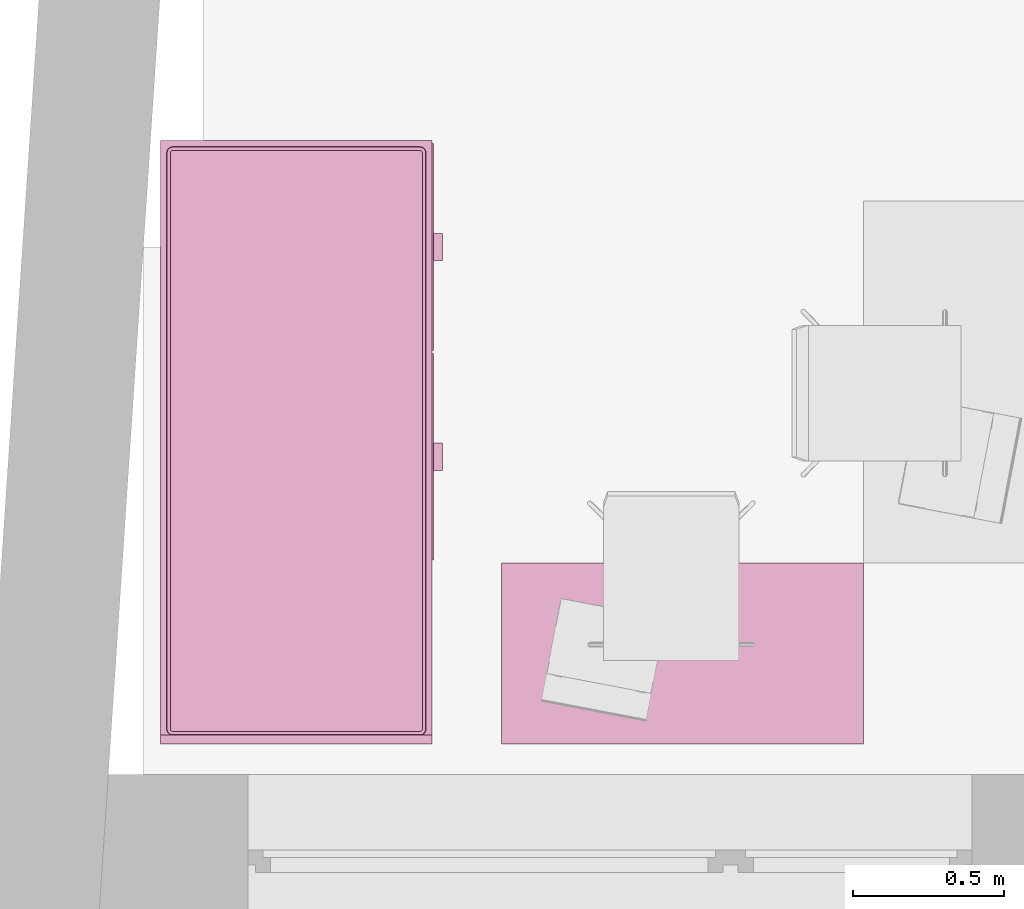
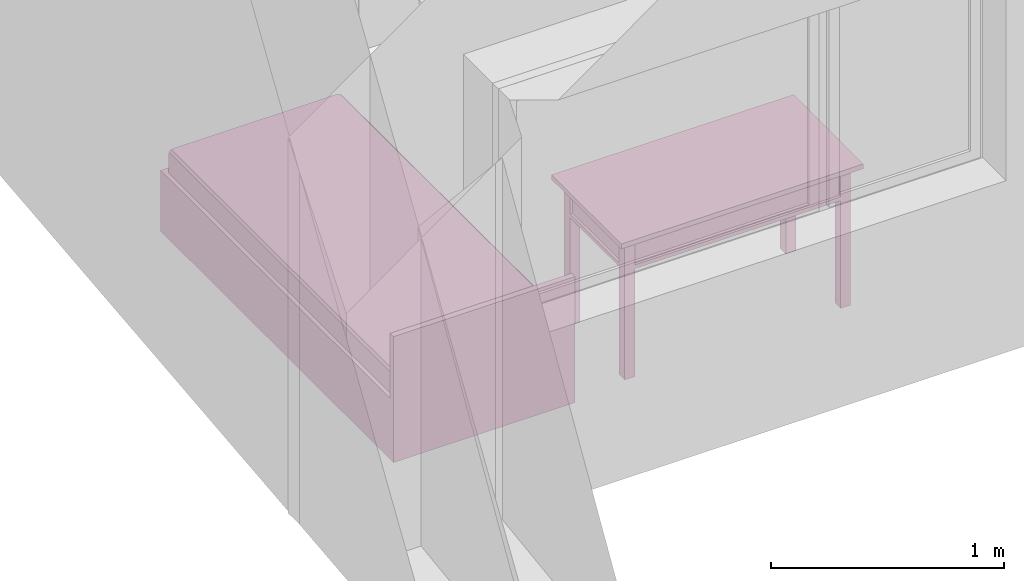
# One storey, part 53 of 165: 2 furnishings.
"""IFC2X3 building model written with IfcOpenShell, lengths in millimetres."""

from ifc_helpers import new_model, entity, si_unit, converted_unit, money_unit, direction, frame, origin_with_axes, place, context, subcontext, project, spatial, faceted_brep, source, transform, mapped, material, material_list, type_object, element, save


model = new_model("IFC2X3")

# Units and contexts
model_context = context("Model", 3, precision=1e-05, world=origin_with_axes(), true_north=direction((0.0, 1.0)))
body_context = subcontext(model_context, "Body", "Model", "MODEL_VIEW")
ifc_project = project(units=[si_unit("LENGTHUNIT", "METRE", prefix="MILLI"), si_unit("AREAUNIT", "SQUARE_METRE"), si_unit("VOLUMEUNIT", "CUBIC_METRE"), converted_unit("PLANEANGLEUNIT", "DEGREE", entity("IfcPlaneAngleMeasure", 0.0174532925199), si_unit("PLANEANGLEUNIT", "RADIAN"), dimensions=[0, 0, 0, 0, 0, 0, 0]), si_unit("SOLIDANGLEUNIT", "STERADIAN"), money_unit("USD"), converted_unit("TIMEUNIT", "Year", entity("IfcTimeMeasure", 31556926.0), si_unit("TIMEUNIT", "SECOND"), dimensions=[0, 0, 0, 0, 0, 0, 0]), si_unit("MASSUNIT", "GRAM"), si_unit("THERMODYNAMICTEMPERATUREUNIT", "DEGREE_CELSIUS"), si_unit("LUMINOUSINTENSITYUNIT", "LUMEN")], contexts=[model_context])

# Site, building, storey
site_placement = place(None, origin_with_axes())
site = spatial("IfcSite", under=ifc_project, at=site_placement, Name="Site", CompositionType="ELEMENT")
building_placement = place(site_placement, origin_with_axes())
building = spatial("IfcBuilding", under=site, at=building_placement, Name="Building", CompositionType="ELEMENT")
storey_placement = place(building_placement, frame((0.0, 0.0, 6300.0), z_axis=(0.0, 0.0, 1.0), x_axis=(1.0, 0.0, 0.0)))
storey = spatial("IfcBuildingStorey", under=building, at=storey_placement, Name="4KORRUS", CompositionType="ELEMENT", Elevation=6300.0)

# Furnishings
ifc_material = material(Name="Background")
ifc_material_list = material_list([ifc_material])
furnishing_element_type_1 = type_object("IfcFurnishingElementType", Name="Bed 19")
shared_shape_1 = source(origin_with_axes(), body_context, "Body", "Brep", [
    faceted_brep([(-900.0, 1970.0, 0.0), (-900.0, 2000.0, 0.0), (0.0, 2000.0, 0.0), (0.0, 1970.0, 0.0), (-900.0, 1970.0, 660.0), (-900.0, 2000.0, 660.0), (0.0, 2000.0, 660.0), (0.0, 1970.0, 660.0)], [[[0, 1, 2, 3]], [[0, 4, 5, 1]], [[1, 5, 6, 2]], [[2, 6, 7, 3]], [[3, 7, 4, 0]], [[7, 6, 5, 4]]]),
    faceted_brep([(-900.0, 0.0, 0.0), (-900.0, 1970.0, 0.0), (0.0, 1970.0, 0.0), (0.0, 0.0, 0.0), (-900.0, 0.0, 320.0), (-900.0, 1970.0, 320.0), (0.0, 1970.0, 320.0), (0.0, 0.0, 320.0)], [[[0, 1, 2, 3]], [[0, 4, 5, 1]], [[1, 5, 6, 2]], [[2, 6, 7, 3]], [[3, 7, 4, 0]], [[7, 6, 5, 4]]]),
    faceted_brep([(-905.0, 10.0, 30.0), (-905.0, 695.0, 30.0), (-900.0, 695.0, 30.0), (-900.0, 10.0, 30.0), (-905.0, 10.0, 290.0), (-905.0, 695.0, 290.0), (-900.0, 695.0, 290.0), (-900.0, 10.0, 290.0)], [[[0, 1, 2, 3]], [[0, 4, 5, 1]], [[1, 5, 6, 2]], [[2, 6, 7, 3]], [[3, 7, 4, 0]], [[7, 6, 5, 4]]]),
    faceted_brep([(-935.0, 307.5, 150.0), (-935.0, 397.5, 150.0), (-905.0, 397.5, 150.0), (-905.0, 307.5, 150.0), (-935.0, 307.5, 170.0), (-935.0, 397.5, 170.0), (-905.0, 397.5, 170.0), (-905.0, 307.5, 170.0)], [[[0, 1, 2, 3]], [[0, 4, 5, 1]], [[1, 5, 6, 2]], [[2, 6, 7, 3]], [[3, 7, 4, 0]], [[7, 6, 5, 4]]]),
    faceted_brep([(-905.0, 705.0, 30.0), (-905.0, 1390.0, 30.0), (-900.0, 1390.0, 30.0), (-900.0, 705.0, 30.0), (-905.0, 705.0, 290.0), (-905.0, 1390.0, 290.0), (-900.0, 1390.0, 290.0), (-900.0, 705.0, 290.0)], [[[0, 1, 2, 3]], [[0, 4, 5, 1]], [[1, 5, 6, 2]], [[2, 6, 7, 3]], [[3, 7, 4, 0]], [[7, 6, 5, 4]]]),
    faceted_brep([(-935.0, 1002.5, 150.0), (-935.0, 1092.5, 150.0), (-905.0, 1092.5, 150.0), (-905.0, 1002.5, 150.0), (-935.0, 1002.5, 170.0), (-935.0, 1092.5, 170.0), (-905.0, 1092.5, 170.0), (-905.0, 1002.5, 170.0)], [[[0, 1, 2, 3]], [[0, 4, 5, 1]], [[1, 5, 6, 2]], [[2, 6, 7, 3]], [[3, 7, 4, 0]], [[7, 6, 5, 4]]]),
    faceted_brep([(-20.0, 40.0, 350.0), (-21.522, 32.346, 350.0), (-25.858, 25.858, 350.0), (-32.346, 21.522, 350.0), (-40.0, 20.0, 350.0), (-860.0, 20.0, 350.0), (-867.654, 21.522, 350.0), (-874.142, 25.858, 350.0), (-878.478, 32.346, 350.0), (-880.0, 40.0, 350.0), (-880.0, 1950.0, 350.0), (-878.478, 1957.654, 350.0), (-874.142, 1964.142, 350.0), (-867.654, 1968.478, 350.0), (-860.0, 1970.0, 350.0), (-40.0, 1970.0, 350.0), (-32.346, 1968.478, 350.0), (-25.858, 1964.142, 350.0), (-21.522, 1957.654, 350.0), (-20.0, 1950.0, 350.0), (-20.0, 40.0, 420.0), (-21.522, 32.346, 420.0), (-25.858, 25.858, 420.0), (-32.346, 21.522, 420.0), (-40.0, 20.0, 420.0), (-860.0, 20.0, 420.0), (-867.654, 21.522, 420.0), (-874.142, 25.858, 420.0), (-878.478, 32.346, 420.0), (-880.0, 40.0, 420.0), (-880.0, 1950.0, 420.0), (-878.478, 1957.654, 420.0), (-874.142, 1964.142, 420.0), (-867.654, 1968.478, 420.0), (-860.0, 1970.0, 420.0), (-40.0, 1970.0, 420.0), (-32.346, 1968.478, 420.0), (-25.858, 1964.142, 420.0), (-21.522, 1957.654, 420.0), (-20.0, 1950.0, 420.0), (-21.522, 40.15, 427.654), (-22.956, 32.94, 427.654), (-26.955, 26.955, 427.654), (-32.94, 22.956, 427.654), (-40.15, 21.522, 427.654), (-859.85, 21.522, 427.654), (-867.06, 22.956, 427.654), (-873.045, 26.955, 427.654), (-877.044, 32.94, 427.654), (-878.478, 40.15, 427.654), (-878.478, 1949.85, 427.654), (-877.044, 1957.06, 427.654), (-873.045, 1963.045, 427.654), (-867.06, 1967.044, 427.654), (-859.85, 1968.478, 427.654), (-40.15, 1968.478, 427.654), (-32.94, 1967.044, 427.654), (-26.955, 1963.045, 427.654), (-22.956, 1957.06, 427.654), (-21.522, 1949.85, 427.654), (-32.346, 41.216, 438.478), (-33.152, 37.164, 438.478), (-34.759, 34.759, 438.478), (-37.164, 33.152, 438.478), (-41.216, 32.346, 438.478), (-858.784, 32.346, 438.478), (-862.836, 33.152, 438.478), (-865.241, 34.759, 438.478), (-866.848, 37.164, 438.478), (-867.654, 41.216, 438.478), (-867.654, 1948.784, 438.478), (-866.848, 1952.836, 438.478), (-865.241, 1955.241, 438.478), (-862.836, 1956.848, 438.478), (-858.784, 1957.654, 438.478), (-41.216, 1957.654, 438.478), (-37.164, 1956.848, 438.478), (-34.759, 1955.241, 438.478), (-33.152, 1952.836, 438.478), (-32.346, 1948.784, 438.478), (-40.0, 41.97, 440.0), (-40.327, 40.327, 440.0), (-40.0, 40.0, 439.924), (-41.97, 40.0, 440.0), (-858.03, 40.0, 440.0), (-859.673, 40.327, 440.0), (-860.0, 40.0, 439.924), (-860.0, 41.97, 440.0), (-860.0, 1948.03, 440.0), (-859.673, 1949.673, 440.0), (-860.0, 1950.0, 439.924), (-858.03, 1950.0, 440.0), (-41.97, 1950.0, 440.0), (-40.327, 1949.673, 440.0), (-40.0, 1950.0, 439.924), (-40.0, 1948.03, 440.0)], [[[0, 1, 2, 3, 4, 5, 6, 7, 8, 9, 10, 11, 12, 13, 14, 15, 16, 17, 18, 19]], [[0, 20, 21, 1]], [[1, 21, 22, 2]], [[2, 22, 23, 3]], [[3, 23, 24, 4]], [[4, 24, 25, 5]], [[5, 25, 26, 6]], [[6, 26, 27, 7]], [[7, 27, 28, 8]], [[8, 28, 29, 9]], [[9, 29, 30, 10]], [[10, 30, 31, 11]], [[11, 31, 32, 12]], [[12, 32, 33, 13]], [[13, 33, 34, 14]], [[14, 34, 35, 15]], [[15, 35, 36, 16]], [[16, 36, 37, 17]], [[17, 37, 38, 18]], [[18, 38, 39, 19]], [[19, 39, 20, 0]], [[20, 40, 41, 21]], [[21, 41, 42, 22]], [[22, 42, 43, 23]], [[23, 43, 44, 24]], [[24, 44, 45, 25]], [[25, 45, 46, 26]], [[26, 46, 47, 27]], [[27, 47, 48, 28]], [[28, 48, 49, 29]], [[29, 49, 50, 30]], [[30, 50, 51, 31]], [[31, 51, 52, 32]], [[32, 52, 53, 33]], [[33, 53, 54, 34]], [[34, 54, 55, 35]], [[35, 55, 56, 36]], [[36, 56, 57, 37]], [[37, 57, 58, 38]], [[38, 58, 59, 39]], [[39, 59, 40, 20]], [[40, 60, 61, 41]], [[41, 61, 62, 42]], [[42, 62, 63, 43]], [[43, 63, 64, 44]], [[44, 64, 65, 45]], [[45, 65, 66, 46]], [[46, 66, 67, 47]], [[47, 67, 68, 48]], [[48, 68, 69, 49]], [[49, 69, 70, 50]], [[50, 70, 71, 51]], [[51, 71, 72, 52]], [[52, 72, 73, 53]], [[53, 73, 74, 54]], [[54, 74, 75, 55]], [[55, 75, 76, 56]], [[56, 76, 77, 57]], [[57, 77, 78, 58]], [[58, 78, 79, 59]], [[59, 79, 60, 40]], [[60, 80, 81, 82, 61]], [[61, 82, 62]], [[62, 82, 63]], [[63, 82, 81, 83, 64]], [[64, 83, 84, 65]], [[65, 84, 85, 86, 66]], [[66, 86, 67]], [[67, 86, 68]], [[68, 86, 85, 87, 69]], [[69, 87, 88, 70]], [[70, 88, 89, 90, 71]], [[71, 90, 72]], [[72, 90, 73]], [[73, 90, 89, 91, 74]], [[74, 91, 92, 75]], [[75, 92, 93, 94, 76]], [[76, 94, 77]], [[77, 94, 78]], [[78, 94, 93, 95, 79]], [[79, 95, 80, 60]], [[95, 93, 92, 91, 89, 88, 87, 85, 84, 83, 81, 80]]]),
    faceted_brep([(-20.0, 40.0, 350.0), (-20.0, 1950.0, 350.0), (-21.522, 1957.654, 350.0), (-25.858, 1964.142, 350.0), (-32.346, 1968.478, 350.0), (-40.0, 1970.0, 350.0), (-860.0, 1970.0, 350.0), (-867.654, 1968.478, 350.0), (-874.142, 1964.142, 350.0), (-878.478, 1957.654, 350.0), (-880.0, 1950.0, 350.0), (-880.0, 40.0, 350.0), (-878.478, 32.346, 350.0), (-874.142, 25.858, 350.0), (-867.654, 21.522, 350.0), (-860.0, 20.0, 350.0), (-40.0, 20.0, 350.0), (-32.346, 21.522, 350.0), (-25.858, 25.858, 350.0), (-21.522, 32.346, 350.0), (-20.0, 40.0, 320.0), (-20.0, 1950.0, 320.0), (-21.522, 1957.654, 320.0), (-25.858, 1964.142, 320.0), (-32.346, 1968.478, 320.0), (-40.0, 1970.0, 320.0), (-860.0, 1970.0, 320.0), (-867.654, 1968.478, 320.0), (-874.142, 1964.142, 320.0), (-878.478, 1957.654, 320.0), (-880.0, 1950.0, 320.0), (-880.0, 40.0, 320.0), (-878.478, 32.346, 320.0), (-874.142, 25.858, 320.0), (-867.654, 21.522, 320.0), (-860.0, 20.0, 320.0), (-40.0, 20.0, 320.0), (-32.346, 21.522, 320.0), (-25.858, 25.858, 320.0), (-21.522, 32.346, 320.0)], [[[0, 1, 2, 3, 4, 5, 6, 7, 8, 9, 10, 11, 12, 13, 14, 15, 16, 17, 18, 19]], [[1, 0, 20, 21]], [[2, 1, 21, 22]], [[3, 2, 22, 23]], [[4, 3, 23, 24]], [[5, 4, 24, 25]], [[6, 5, 25, 26]], [[7, 6, 26, 27]], [[8, 7, 27, 28]], [[9, 8, 28, 29]], [[10, 9, 29, 30]], [[11, 10, 30, 31]], [[12, 11, 31, 32]], [[13, 12, 32, 33]], [[14, 13, 33, 34]], [[15, 14, 34, 35]], [[16, 15, 35, 36]], [[17, 16, 36, 37]], [[18, 17, 37, 38]], [[19, 18, 38, 39]], [[0, 19, 39, 20]], [[20, 39, 38, 37, 36, 35, 34, 33, 32, 31, 30, 29, 28, 27, 26, 25, 24, 23, 22, 21]]]),
])
furnishing_1_placement = place(storey_placement, frame((-54025.0359916, -17539.2398994, 0.0), z_axis=(0.0, 0.0, 1.0), x_axis=(-1.0, 0.0, 0.0)))
element("IfcFurnishingElement", 1, at=furnishing_1_placement, inside=storey, type_object=furnishing_element_type_1, material=ifc_material_list, Name="FU - 013", context=body_context, shape_type="MappedRepresentation", body=[
    mapped(shared_shape_1, transform((0.0, 0.0, 0.0))),
])
furnishing_element_type_2 = type_object("IfcFurnishingElementType", Name="Rectangular Table 01 19")
shared_shape_2 = source(origin_with_axes(), body_context, "Body", "Brep", [
    faceted_brep([(-90.0, 40.0, 0.0), (-90.0, 90.0, 0.0), (-40.0, 90.0, 0.0), (-40.0, 40.0, 0.0), (-90.0, 40.0, 725.0), (-90.0, 90.0, 725.0), (-40.0, 90.0, 725.0), (-40.0, 40.0, 725.0)], [[[0, 1, 2, 3]], [[0, 4, 5, 1]], [[1, 5, 6, 2]], [[2, 6, 7, 3]], [[3, 7, 4, 0]], [[7, 6, 5, 4]]]),
    faceted_brep([(-1160.0, 40.0, 0.0), (-1160.0, 90.0, 0.0), (-1110.0, 90.0, 0.0), (-1110.0, 40.0, 0.0), (-1160.0, 40.0, 725.0), (-1160.0, 90.0, 725.0), (-1110.0, 90.0, 725.0), (-1110.0, 40.0, 725.0)], [[[0, 1, 2, 3]], [[0, 4, 5, 1]], [[1, 5, 6, 2]], [[2, 6, 7, 3]], [[3, 7, 4, 0]], [[7, 6, 5, 4]]]),
    faceted_brep([(-90.0, 510.0, 0.0), (-90.0, 560.0, 0.0), (-40.0, 560.0, 0.0), (-40.0, 510.0, 0.0), (-90.0, 510.0, 725.0), (-90.0, 560.0, 725.0), (-40.0, 560.0, 725.0), (-40.0, 510.0, 725.0)], [[[0, 1, 2, 3]], [[0, 4, 5, 1]], [[1, 5, 6, 2]], [[2, 6, 7, 3]], [[3, 7, 4, 0]], [[7, 6, 5, 4]]]),
    faceted_brep([(-1160.0, 510.0, 0.0), (-1160.0, 560.0, 0.0), (-1110.0, 560.0, 0.0), (-1110.0, 510.0, 0.0), (-1160.0, 510.0, 725.0), (-1160.0, 560.0, 725.0), (-1110.0, 560.0, 725.0), (-1110.0, 510.0, 725.0)], [[[0, 1, 2, 3]], [[0, 4, 5, 1]], [[1, 5, 6, 2]], [[2, 6, 7, 3]], [[3, 7, 4, 0]], [[7, 6, 5, 4]]]),
    faceted_brep([(-1160.0, 40.0, 565.0), (-1160.0, 560.0, 565.0), (-40.0, 560.0, 565.0), (-40.0, 40.0, 565.0), (-1160.0, 40.0, 585.0), (-1160.0, 560.0, 585.0), (-40.0, 560.0, 585.0), (-40.0, 40.0, 585.0)], [[[0, 1, 2, 3]], [[0, 4, 5, 1]], [[1, 5, 6, 2]], [[2, 6, 7, 3]], [[3, 7, 4, 0]], [[7, 6, 5, 4]]]),
    faceted_brep([(-1110.0, 52.5, 585.0), (-1110.0, 77.5, 585.0), (-90.0, 77.5, 585.0), (-90.0, 52.5, 585.0), (-1110.0, 52.5, 745.0), (-1110.0, 77.5, 745.0), (-90.0, 77.5, 745.0), (-90.0, 52.5, 745.0)], [[[0, 1, 2, 3]], [[0, 4, 5, 1]], [[1, 5, 6, 2]], [[2, 6, 7, 3]], [[3, 7, 4, 0]], [[7, 6, 5, 4]]]),
    faceted_brep([(-77.5, 90.0, 585.0), (-77.5, 510.0, 585.0), (-52.5, 510.0, 585.0), (-52.5, 90.0, 585.0), (-77.5, 90.0, 745.0), (-77.5, 510.0, 745.0), (-52.5, 510.0, 745.0), (-52.5, 90.0, 745.0)], [[[0, 1, 2, 3]], [[0, 4, 5, 1]], [[1, 5, 6, 2]], [[2, 6, 7, 3]], [[3, 7, 4, 0]], [[7, 6, 5, 4]]]),
    faceted_brep([(-90.0, 547.5, 585.0), (-90.0, 522.5, 585.0), (-1110.0, 522.5, 585.0), (-1110.0, 547.5, 585.0), (-90.0, 547.5, 745.0), (-90.0, 522.5, 745.0), (-1110.0, 522.5, 745.0), (-1110.0, 547.5, 745.0)], [[[0, 1, 2, 3]], [[0, 4, 5, 1]], [[1, 5, 6, 2]], [[2, 6, 7, 3]], [[3, 7, 4, 0]], [[7, 6, 5, 4]]]),
    faceted_brep([(-1122.5, 510.0, 585.0), (-1122.5, 90.0, 585.0), (-1147.5, 90.0, 585.0), (-1147.5, 510.0, 585.0), (-1122.5, 510.0, 745.0), (-1122.5, 90.0, 745.0), (-1147.5, 90.0, 745.0), (-1147.5, 510.0, 745.0)], [[[0, 1, 2, 3]], [[0, 4, 5, 1]], [[1, 5, 6, 2]], [[2, 6, 7, 3]], [[3, 7, 4, 0]], [[7, 6, 5, 4]]]),
    faceted_brep([(-597.5, 40.0, 585.0), (-597.5, 60.0, 585.0), (-95.0, 60.0, 585.0), (-95.0, 40.0, 585.0), (-597.5, 40.0, 745.0), (-597.5, 60.0, 745.0), (-95.0, 60.0, 745.0), (-95.0, 40.0, 745.0)], [[[0, 1, 2, 3]], [[0, 4, 5, 1]], [[1, 5, 6, 2]], [[2, 6, 7, 3]], [[3, 7, 4, 0]], [[7, 6, 5, 4]]]),
    faceted_brep([(-1105.0, 40.0, 585.0), (-1105.0, 60.0, 585.0), (-602.5, 60.0, 585.0), (-602.5, 40.0, 585.0), (-1105.0, 40.0, 745.0), (-1105.0, 60.0, 745.0), (-602.5, 60.0, 745.0), (-602.5, 40.0, 745.0)], [[[0, 1, 2, 3]], [[0, 4, 5, 1]], [[1, 5, 6, 2]], [[2, 6, 7, 3]], [[3, 7, 4, 0]], [[7, 6, 5, 4]]]),
    faceted_brep([(-354.91, 40.0, 660.0), (-356.25, 40.0, 665.0), (-354.91, 40.0, 670.0), (-351.25, 40.0, 673.66), (-346.25, 40.0, 675.0), (-341.25, 40.0, 673.66), (-337.59, 40.0, 670.0), (-336.25, 40.0, 665.0), (-337.59, 40.0, 660.0), (-341.25, 40.0, 656.34), (-346.25, 40.0, 655.0), (-351.25, 40.0, 656.34), (-354.91, 25.0, 660.0), (-356.25, 25.0, 665.0), (-354.91, 25.0, 670.0), (-351.25, 25.0, 673.66), (-346.25, 25.0, 675.0), (-341.25, 25.0, 673.66), (-337.59, 25.0, 670.0), (-336.25, 25.0, 665.0), (-337.59, 25.0, 660.0), (-341.25, 25.0, 656.34), (-346.25, 25.0, 655.0), (-351.25, 25.0, 656.34)], [[[0, 1, 2, 3, 4, 5, 6, 7, 8, 9, 10, 11]], [[0, 12, 13, 1]], [[1, 13, 14, 2]], [[2, 14, 15, 3]], [[3, 15, 16, 4]], [[4, 16, 17, 5]], [[5, 17, 18, 6]], [[6, 18, 19, 7]], [[7, 19, 20, 8]], [[8, 20, 21, 9]], [[9, 21, 22, 10]], [[10, 22, 23, 11]], [[11, 23, 12, 0]], [[12, 23, 22, 21, 20, 19, 18, 17, 16, 15, 14, 13]]]),
    faceted_brep([(-356.25, 12.01, 665.0), (-354.91, 12.01, 660.0), (-346.25, 10.0, 665.0), (-363.571, 17.5, 665.0), (-361.25, 17.5, 656.34), (-351.25, 12.01, 656.34), (-354.91, 12.01, 670.0), (-366.25, 25.0, 665.0), (-363.571, 25.0, 655.0), (-354.91, 17.5, 650.0), (-361.25, 17.5, 673.66), (-346.25, 12.01, 655.0), (-351.25, 12.01, 673.66), (-363.571, 25.0, 675.0), (-356.25, 25.0, 682.321), (-346.25, 25.0, 685.0), (-336.25, 25.0, 682.321), (-328.929, 25.0, 675.0), (-326.25, 25.0, 665.0), (-328.929, 25.0, 655.0), (-336.25, 25.0, 647.679), (-346.25, 25.0, 645.0), (-356.25, 25.0, 647.679), (-346.25, 17.5, 647.679), (-354.91, 17.5, 680.0), (-341.25, 12.01, 656.34), (-346.25, 12.01, 675.0), (-346.25, 17.5, 682.321), (-337.59, 17.5, 680.0), (-331.25, 17.5, 673.66), (-328.929, 17.5, 665.0), (-331.25, 17.5, 656.34), (-337.59, 17.5, 650.0), (-337.59, 12.01, 660.0), (-341.25, 12.01, 673.66), (-337.59, 12.01, 670.0), (-336.25, 12.01, 665.0)], [[[0, 1, 2]], [[3, 4, 1, 0]], [[1, 5, 2]], [[6, 0, 2]], [[7, 8, 4, 3]], [[4, 9, 5, 1]], [[10, 3, 0, 6]], [[5, 11, 2]], [[12, 6, 2]], [[8, 7, 13, 14, 15, 16, 17, 18, 19, 20, 21, 22]], [[8, 22, 9, 4]], [[13, 7, 3, 10]], [[9, 23, 11, 5]], [[24, 10, 6, 12]], [[11, 25, 2]], [[26, 12, 2]], [[14, 13, 10, 24]], [[15, 14, 24, 27]], [[16, 15, 27, 28]], [[17, 16, 28, 29]], [[18, 17, 29, 30]], [[19, 18, 30, 31]], [[20, 19, 31, 32]], [[21, 20, 32, 23]], [[22, 21, 23, 9]], [[23, 32, 25, 11]], [[27, 24, 12, 26]], [[25, 33, 2]], [[34, 26, 2]], [[28, 27, 26, 34]], [[29, 28, 34, 35]], [[30, 29, 35, 36]], [[31, 30, 36, 33]], [[32, 31, 33, 25]], [[33, 36, 2]], [[35, 34, 2]], [[36, 35, 2]]]),
    faceted_brep([(-862.41, 40.0, 660.0), (-863.75, 40.0, 665.0), (-862.41, 40.0, 670.0), (-858.75, 40.0, 673.66), (-853.75, 40.0, 675.0), (-848.75, 40.0, 673.66), (-845.09, 40.0, 670.0), (-843.75, 40.0, 665.0), (-845.09, 40.0, 660.0), (-848.75, 40.0, 656.34), (-853.75, 40.0, 655.0), (-858.75, 40.0, 656.34), (-862.41, 25.0, 660.0), (-863.75, 25.0, 665.0), (-862.41, 25.0, 670.0), (-858.75, 25.0, 673.66), (-853.75, 25.0, 675.0), (-848.75, 25.0, 673.66), (-845.09, 25.0, 670.0), (-843.75, 25.0, 665.0), (-845.09, 25.0, 660.0), (-848.75, 25.0, 656.34), (-853.75, 25.0, 655.0), (-858.75, 25.0, 656.34)], [[[0, 1, 2, 3, 4, 5, 6, 7, 8, 9, 10, 11]], [[0, 12, 13, 1]], [[1, 13, 14, 2]], [[2, 14, 15, 3]], [[3, 15, 16, 4]], [[4, 16, 17, 5]], [[5, 17, 18, 6]], [[6, 18, 19, 7]], [[7, 19, 20, 8]], [[8, 20, 21, 9]], [[9, 21, 22, 10]], [[10, 22, 23, 11]], [[11, 23, 12, 0]], [[12, 23, 22, 21, 20, 19, 18, 17, 16, 15, 14, 13]]]),
    faceted_brep([(-863.75, 12.01, 665.0), (-862.41, 12.01, 660.0), (-853.75, 10.0, 665.0), (-871.071, 17.5, 665.0), (-868.75, 17.5, 656.34), (-858.75, 12.01, 656.34), (-862.41, 12.01, 670.0), (-873.75, 25.0, 665.0), (-871.071, 25.0, 655.0), (-862.41, 17.5, 650.0), (-868.75, 17.5, 673.66), (-853.75, 12.01, 655.0), (-858.75, 12.01, 673.66), (-871.071, 25.0, 675.0), (-863.75, 25.0, 682.321), (-853.75, 25.0, 685.0), (-843.75, 25.0, 682.321), (-836.429, 25.0, 675.0), (-833.75, 25.0, 665.0), (-836.429, 25.0, 655.0), (-843.75, 25.0, 647.679), (-853.75, 25.0, 645.0), (-863.75, 25.0, 647.679), (-853.75, 17.5, 647.679), (-862.41, 17.5, 680.0), (-848.75, 12.01, 656.34), (-853.75, 12.01, 675.0), (-853.75, 17.5, 682.321), (-845.09, 17.5, 680.0), (-838.75, 17.5, 673.66), (-836.429, 17.5, 665.0), (-838.75, 17.5, 656.34), (-845.09, 17.5, 650.0), (-845.09, 12.01, 660.0), (-848.75, 12.01, 673.66), (-845.09, 12.01, 670.0), (-843.75, 12.01, 665.0)], [[[0, 1, 2]], [[3, 4, 1, 0]], [[1, 5, 2]], [[6, 0, 2]], [[7, 8, 4, 3]], [[4, 9, 5, 1]], [[10, 3, 0, 6]], [[5, 11, 2]], [[12, 6, 2]], [[8, 7, 13, 14, 15, 16, 17, 18, 19, 20, 21, 22]], [[8, 22, 9, 4]], [[13, 7, 3, 10]], [[9, 23, 11, 5]], [[24, 10, 6, 12]], [[11, 25, 2]], [[26, 12, 2]], [[14, 13, 10, 24]], [[15, 14, 24, 27]], [[16, 15, 27, 28]], [[17, 16, 28, 29]], [[18, 17, 29, 30]], [[19, 18, 30, 31]], [[20, 19, 31, 32]], [[21, 20, 32, 23]], [[22, 21, 23, 9]], [[23, 32, 25, 11]], [[27, 24, 12, 26]], [[25, 33, 2]], [[34, 26, 2]], [[28, 27, 26, 34]], [[29, 28, 34, 35]], [[30, 29, 35, 36]], [[31, 30, 36, 33]], [[32, 31, 33, 25]], [[33, 36, 2]], [[35, 34, 2]], [[36, 35, 2]]]),
    faceted_brep([(-1200.0, 0.0, 725.0), (-1200.0, 600.0, 725.0), (0.0, 600.0, 725.0), (0.0, 0.0, 725.0), (-1200.0, 0.0, 750.0), (-1200.0, 600.0, 750.0), (0.0, 600.0, 750.0), (0.0, 0.0, 750.0)], [[[0, 1, 2, 3]], [[0, 4, 5, 1]], [[1, 5, 6, 2]], [[2, 6, 7, 3]], [[3, 7, 4, 0]], [[7, 6, 5, 4]]]),
])
furnishing_2_placement = place(storey_placement, frame((-52895.8669764, -18939.2398994, 0.0), z_axis=(0.0, 0.0, 1.0), x_axis=(-1.0, 0.0, 0.0)))
element("IfcFurnishingElement", 2, at=furnishing_2_placement, inside=storey, type_object=furnishing_element_type_2, material=ifc_material_list, Name="FU - 011", context=body_context, shape_type="MappedRepresentation", body=[
    mapped(shared_shape_2, transform((0.0, 0.0, 0.0))),
])

save(model, "model.ifc")
